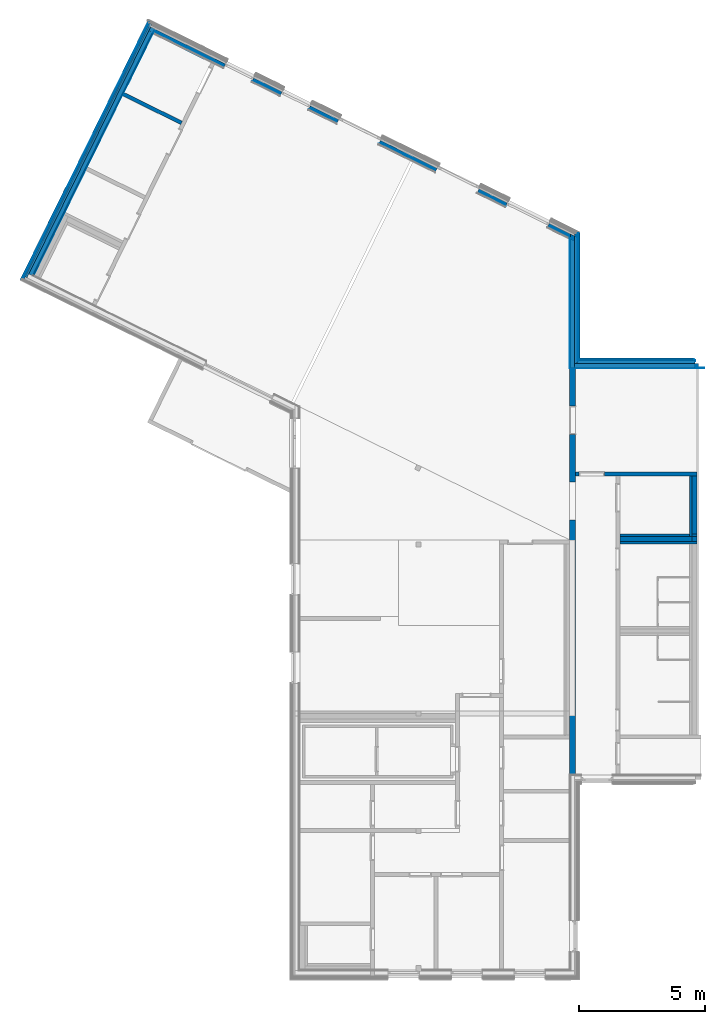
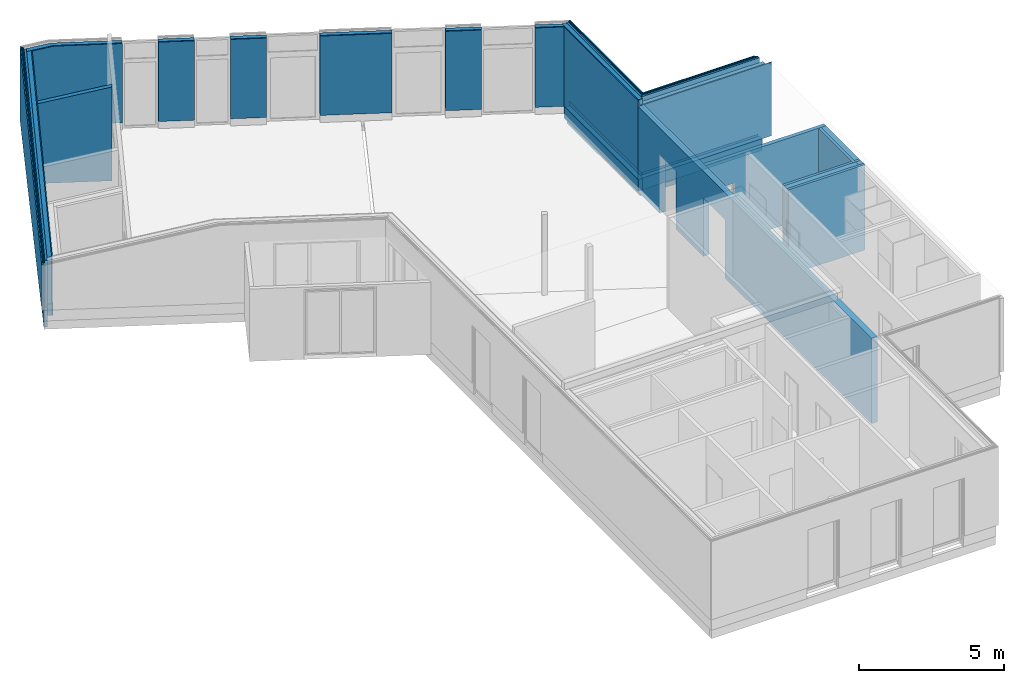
# One storey, part 5 of 23: 43 walls, 13 openings.
"""IFC4 building model written with IfcOpenShell, lengths in metres."""

from ifc_helpers import new_model, entity, si_unit, converted_unit, derived_unit, frame, frame_2d, origin, origin_with_axes, place, context, subcontext, project, spatial, polyline, rectangle, outline, extrude, clip, halfspace, bounded_halfspace, material, element, save


model = new_model("IFC4")

# Units and contexts
model_context = context("Model", 3, precision=1e-05, world=origin())
body_context = subcontext(model_context, "Body", "Model", "MODEL_VIEW")
ifc_project = project(units=[si_unit("LENGTHUNIT", "METRE"), si_unit("AREAUNIT", "SQUARE_METRE"), si_unit("VOLUMEUNIT", "CUBIC_METRE"), si_unit("MASSUNIT", "GRAM", prefix="KILO"), converted_unit("PLANEANGLEUNIT", "DEGREE", entity("IfcPlaneAngleMeasure", 0.0174532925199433), si_unit("PLANEANGLEUNIT", "RADIAN"), dimensions=[0, 0, 0, 0, 0, 0, 0]), derived_unit("THERMALTRANSMITTANCEUNIT", [(si_unit("POWERUNIT", "WATT"), 1), (si_unit("THERMODYNAMICTEMPERATUREUNIT", "KELVIN"), -1), (si_unit("LENGTHUNIT", "METRE"), -2)]), derived_unit("VOLUMETRICFLOWRATEUNIT", [(si_unit("LENGTHUNIT", "METRE"), 3), (converted_unit("TIMEUNIT", "hour", entity("IfcTimeMeasure", 3600.0), si_unit("TIMEUNIT", "SECOND"), dimensions=[0, 0, 1, 0, 0, 0, 0]), -1), (si_unit("LENGTHUNIT", "METRE"), -1)])], contexts=[model_context])

# Site, building, storey
site_placement = place(None, origin())
site = spatial("IfcSite", under=ifc_project, at=site_placement, Name="Psychiatrie Neubau Wunstorf", CompositionType="ELEMENT")
building_placement = place(site_placement, origin())
building = spatial("IfcBuilding", under=site, at=building_placement, Name="Neubau H1 Sozialzentrum", CompositionType="ELEMENT")
storey_placement = place(building_placement, frame((0.0, 0.0, 0.7)))
storey = spatial("IfcBuildingStorey", under=building, at=storey_placement, Name="H1 Ebene 0", CompositionType="ELEMENT", Elevation=0.7)

# Walls
ifc_material_1 = material(Name="WA-LB")
wall_1_placement = place(storey_placement, frame((-5.13052529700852, 28.0942445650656, 0.3)))
element("IfcWall", 1, at=wall_1_placement, inside=storey, material=ifc_material_1, context=body_context, shape_type="SweptSolid", body=[
    extrude(rectangle(XDim=5.29952529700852, YDim=0.036, at=frame_2d((2.64976264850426, 0.018), x_axis=(1.0, 0.0))), origin_with_axes(), (0.0, 0.0, 1.0), 3.1),
])
ifc_material_2 = material(Name="WA-HD")
wall_2_placement = place(storey_placement, frame((-4.97052529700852, 28.1302445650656, 0.3)))
element("IfcWall", 2, at=wall_2_placement, inside=storey, material=ifc_material_2, context=body_context, shape_type="SweptSolid", body=[
    extrude(rectangle(XDim=4.90452529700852, YDim=0.16, at=frame_2d((2.45226264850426, 0.08), x_axis=(1.0, 0.0))), origin_with_axes(), (0.0, 0.0, 1.0), 3.1),
])
ifc_material_3 = material(Name="WA-DL")
wall_3_placement = place(storey_placement, frame((-4.89052529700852, 28.2902445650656, 0.3)))
element("IfcWall", 3, at=wall_3_placement, inside=storey, material=ifc_material_3, context=body_context, shape_type="SweptSolid", body=[
    extrude(rectangle(XDim=4.68952529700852, YDim=0.08, at=frame_2d((2.34476264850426, 0.04), x_axis=(1.0, 0.0))), origin_with_axes(), (0.0, 0.0, 1.0), 3.3),
])
ifc_material_4 = material(Name="WA-LB")
wall_4_placement = place(storey_placement, frame((-4.85452529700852, 28.3702445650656, 0.3)))
element("IfcWall", 4, at=wall_4_placement, inside=storey, material=ifc_material_4, context=body_context, shape_type="SweptSolid", body=[
    extrude(rectangle(XDim=4.65352529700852, YDim=0.036, at=frame_2d((2.32676264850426, 0.018), x_axis=(1.0, 0.0))), origin_with_axes(), (0.0, 0.0, 1.0), 3.3),
])
ifc_material_5 = material(Name="WA-KL")
wall_5_placement = place(storey_placement, frame((-4.83052529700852, 28.4062445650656, 0.3)))
element("IfcWall", 5, at=wall_5_placement, inside=storey, material=ifc_material_5, context=body_context, shape_type="SweptSolid", body=[
    extrude(rectangle(XDim=4.60452529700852, YDim=0.024, at=frame_2d((2.30226264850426, 0.012), x_axis=(1.0, 0.0))), origin_with_axes(), (0.0, 0.0, 1.0), 3.3),
])
ifc_material_6 = material(Name="WA-TL")
wall_6_placement = place(storey_placement, frame((-4.80652529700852, 28.4302445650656, 0.3)))
element("IfcWall", 6, at=wall_6_placement, inside=storey, material=ifc_material_6, context=body_context, shape_type="SweptSolid", body=[
    extrude(rectangle(XDim=4.55552529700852, YDim=0.024, at=frame_2d((2.27776264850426, 0.012), x_axis=(1.0, 0.0))), origin_with_axes(), (0.0, 0.0, 1.0), 3.3),
])
ifc_material_7 = material(Name="WA-HS")
wall_7_placement = place(storey_placement, frame((-4.76452529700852, 28.4542445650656, 0.3)))
element("IfcWall", 7, at=wall_7_placement, inside=storey, material=ifc_material_7, context=body_context, shape_type="SweptSolid", body=[
    extrude(rectangle(XDim=4.47152529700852, YDim=0.042, at=frame_2d((2.23576264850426, 0.021), x_axis=(1.0, 0.0))), origin_with_axes(), (0.0, 0.0, 1.0), 3.3),
])

# Wall, openings
ifc_material_8 = material(Name="WA-LB")
wall_8_placement = place(storey_placement, frame((-21.7161505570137, 41.3783096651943, 0.3), z_axis=(0.0, 0.0, 1.0), x_axis=(0.896905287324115, -0.442222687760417, 0.0)))
wall_8 = element("IfcWall", 8, at=wall_8_placement, inside=storey, material=ifc_material_8, context=body_context, shape_type="Clipping", body=[
    clip(extrude(outline(polyline([(-3.6084743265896, 7.31861976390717), (14.8434463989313, 7.31861976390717), (14.8256964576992, 7.35461976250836), (-3.60847432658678, 7.35461976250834), (-3.6084743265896, 7.31861976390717)])), frame((3.6084743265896, -7.31861976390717, 0.0), z_axis=(0.0, 0.0, 1.0), x_axis=(1.0, 0.0, 0.0)), (0.0, 0.0, 1.0), 3.35), bounded_halfspace(frame((0.386030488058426, 0.0179999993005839, 3.26121298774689), z_axis=(0.222899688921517, 0.105378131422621, -0.969129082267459), x_axis=(-0.427404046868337, 0.904060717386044, 0.0)), True, origin_with_axes(), polyline([(0.780570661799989, 0.0), (0.763551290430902, 0.035999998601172), (0.0, 0.0359999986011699), (0.0, 0.0), (0.780570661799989, 0.0)]))),
])
opening_1_placement = place(wall_8_placement, frame((17.449870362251, 0.0359999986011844, -0.5), z_axis=(0.0, -1.0, 0.0), x_axis=(0.0, 0.0, 1.0)))
element("IfcOpeningElement", 9, at=opening_1_placement, cuts=wall_8, Name="Fensteröffnung", ObjectType="Opening", context=body_context, shape_type="SweptSolid", body=[
    extrude(outline(polyline([(3.85, 1.85), (3.85, 0.0), (0.0, 0.0), (0.0, 1.85), (3.85, 1.85)])), origin_with_axes(), (0.0, 0.0, 1.0), 0.0359999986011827),
])
opening_2_placement = place(wall_8_placement, frame((6.89987036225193, 0.0359999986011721, -0.5), z_axis=(0.0, -1.0, 0.0), x_axis=(0.0, 0.0, 1.0)))
element("IfcOpeningElement", 10, at=opening_2_placement, cuts=wall_8, Name="Fensteröffnung", ObjectType="Opening", context=body_context, shape_type="SweptSolid", body=[
    extrude(outline(polyline([(3.85, 1.25), (3.85, 0.0), (0.0, 0.0), (0.0, 1.25), (3.85, 1.25)])), origin_with_axes(), (0.0, 0.0, 1.0), 0.0359999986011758),
])
opening_3_placement = place(wall_8_placement, frame((4.39987036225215, 0.0359999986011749, -0.5), z_axis=(0.0, -1.0, 0.0), x_axis=(0.0, 0.0, 1.0)))
element("IfcOpeningElement", 11, at=opening_3_placement, cuts=wall_8, Name="Fensteröffnung", ObjectType="Opening", context=body_context, shape_type="SweptSolid", body=[
    extrude(outline(polyline([(3.85, 1.25000000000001), (3.85, 0.0), (0.0, 0.0), (0.0, 1.25000000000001), (3.85, 1.25000000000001)])), origin_with_axes(), (0.0, 0.0, 1.0), 0.0359999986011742),
])
opening_4_placement = place(wall_8_placement, frame((12.4998675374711, 0.0, -0.5), z_axis=(0.0, 1.0, 0.0), x_axis=(0.0, 0.0, 1.0)))
element("IfcOpeningElement", 12, at=opening_4_placement, cuts=wall_8, Name="Türöffnung", ObjectType="Opening", context=body_context, shape_type="SweptSolid", body=[
    extrude(outline(polyline([(3.85, 1.85000000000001), (3.85, 0.0), (0.0, 0.0), (0.0, 1.85000000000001), (3.85, 1.85000000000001)])), origin_with_axes(), (0.0, 0.0, 1.0), 0.0359999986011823),
])
opening_5_placement = place(wall_8_placement, frame((8.14986753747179, 0.0, -0.5), z_axis=(2.5263742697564e-14, 1.0, 0.0), x_axis=(0.0, 0.0, 1.0)))
element("IfcOpeningElement", 13, at=opening_5_placement, cuts=wall_8, Name="Türöffnung", ObjectType="Opening", context=body_context, shape_type="SweptSolid", body=[
    extrude(outline(polyline([(3.85, 1.85000000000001), (3.85, 0.0), (0.0, 0.0), (0.0, 1.85000000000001), (3.85, 1.85000000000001)])), origin_with_axes(), (0.0, 0.0, 1.0), 0.0359999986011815),
])

ifc_material_9 = material(Name="WA-HD")
wall_9_placement = place(storey_placement, frame((-21.843734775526, 41.4813535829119, 0.3), z_axis=(0.0, 0.0, 1.0), x_axis=(0.896905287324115, -0.442222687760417, 0.0)))
wall_9 = element("IfcWall", 14, at=wall_9_placement, inside=storey, material=ifc_material_9, context=body_context, shape_type="Clipping", body=[
    clip(extrude(outline(polyline([(-3.64414217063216, 7.39096041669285), (14.9901659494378, 7.39096041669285), (14.9112776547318, 7.5509597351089), (-3.64414217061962, 7.55095973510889), (-3.64414217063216, 7.39096041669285)])), frame((3.64414217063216, -7.39096041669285, 0.0), z_axis=(0.0, 0.0, 1.0), x_axis=(1.0, 0.0, 0.0)), (0.0, 0.0, 1.0), 3.35), bounded_halfspace(frame((0.442864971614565, 0.079999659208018, 3.24814105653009), z_axis=(0.222899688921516, 0.105378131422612, -0.969129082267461), x_axis=(-0.427404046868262, 0.904060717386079, 0.0)), True, origin_with_axes(), polyline([(0.923550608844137, 0.0), (0.847909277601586, 0.15999931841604), (0.0, 0.15999931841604), (0.0, 0.0), (0.923550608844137, 0.0)]))),
])
opening_6_placement = place(wall_9_placement, frame((17.6098696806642, 0.159999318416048, -0.5), z_axis=(0.0, -1.0, 0.0), x_axis=(0.0, 0.0, 1.0)))
element("IfcOpeningElement", 15, at=opening_6_placement, cuts=wall_9, Name="Fensteröffnung", ObjectType="Opening", context=body_context, shape_type="SweptSolid", body=[
    extrude(outline(polyline([(3.85, 1.85), (3.85, 0.0), (0.0, 0.0), (0.0, 1.85), (3.85, 1.85)])), origin_with_axes(), (0.0, 0.0, 1.0), 0.159999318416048),
])
opening_7_placement = place(wall_9_placement, frame((7.05986968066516, 0.159999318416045, -0.5), z_axis=(5.68436610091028e-15, -1.0, 0.0), x_axis=(0.0, 0.0, 1.0)))
element("IfcOpeningElement", 16, at=opening_7_placement, cuts=wall_9, Name="Fensteröffnung", ObjectType="Opening", context=body_context, shape_type="SweptSolid", body=[
    extrude(outline(polyline([(3.85, 1.25000000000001), (3.85, 0.0), (0.0, 0.0), (0.0, 1.25000000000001), (3.85, 1.25000000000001)])), origin_with_axes(), (0.0, 0.0, 1.0), 0.159999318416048),
])
opening_8_placement = place(wall_9_placement, frame((4.55986968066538, 0.159999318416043, -0.5), z_axis=(-5.68436610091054e-15, -1.0, 0.0), x_axis=(0.0, 0.0, 1.0)))
element("IfcOpeningElement", 17, at=opening_8_placement, cuts=wall_9, Name="Fensteröffnung", ObjectType="Opening", context=body_context, shape_type="SweptSolid", body=[
    extrude(outline(polyline([(3.85, 1.25000000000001), (3.85, 0.0), (0.0, 0.0), (0.0, 1.25000000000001), (3.85, 1.25000000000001)])), origin_with_axes(), (0.0, 0.0, 1.0), 0.15999931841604),
])
opening_9_placement = place(wall_9_placement, frame((12.6598668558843, 0.0, -0.5), z_axis=(0.0, 1.0, 0.0), x_axis=(0.0, 0.0, 1.0)))
element("IfcOpeningElement", 18, at=opening_9_placement, cuts=wall_9, Name="Türöffnung", ObjectType="Opening", context=body_context, shape_type="SweptSolid", body=[
    extrude(outline(polyline([(3.85, 1.85000000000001), (3.85, 0.0), (0.0, 0.0), (0.0, 1.85000000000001), (3.85, 1.85000000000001)])), origin_with_axes(), (0.0, 0.0, 1.0), 0.159999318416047),
])
opening_10_placement = place(wall_9_placement, frame((8.30986685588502, 0.0, -0.5), z_axis=(0.0, 1.0, 0.0), x_axis=(0.0, 0.0, 1.0)))
element("IfcOpeningElement", 19, at=opening_10_placement, cuts=wall_9, Name="Türöffnung", ObjectType="Opening", context=body_context, shape_type="SweptSolid", body=[
    extrude(outline(polyline([(3.85, 1.85), (3.85, 0.0), (0.0, 0.0), (0.0, 1.85), (3.85, 1.85)])), origin_with_axes(), (0.0, 0.0, 1.0), 0.15999931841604),
])

# Walls
ifc_material_10 = material(Name="WA-LB")
wall_10_placement = place(storey_placement, frame((-5.16652529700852, 33.2585897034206, 0.3), z_axis=(0.0, 0.0, 1.0), x_axis=(0.0, -1.0, 0.0)))
element("IfcWall", 20, at=wall_10_placement, inside=storey, material=ifc_material_10, context=body_context, shape_type="SweptSolid", body=[
    extrude(outline(polyline([(-5.16434513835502, 0.0), (0.0, 0.0), (0.0, 0.036), (-5.14659519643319, 0.036), (-5.16434513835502, 0.0)])), frame((5.16434513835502, 0.0, 0.0), z_axis=(0.0, 0.0, 1.0), x_axis=(1.0, 0.0, 0.0)), (0.0, 0.0, 1.0), 3.35),
])
ifc_material_11 = material(Name="WA-HD")
wall_11_placement = place(storey_placement, frame((-5.13052529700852, 33.4192301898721, 0.3), z_axis=(0.0, 0.0, 1.0), x_axis=(0.0, -1.0, 0.0)))
element("IfcWall", 21, at=wall_11_placement, inside=storey, material=ifc_material_11, context=body_context, shape_type="SweptSolid", body=[
    extrude(outline(polyline([(-5.28898562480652, 0.0), (0.0, 0.0), (0.0, 0.16), (-5.21009699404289, 0.16), (-5.28898562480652, 0.0)])), frame((5.28898562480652, 0.0, 0.0), z_axis=(0.0, 0.0, 1.0), x_axis=(1.0, 0.0, 0.0)), (0.0, 0.0, 1.0), 3.35),
])
ifc_material_12 = material(Name="WA-DL")
wall_12_placement = place(storey_placement, frame((-4.97052529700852, 33.4295371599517, 0.3), z_axis=(0.0, 0.0, 1.0), x_axis=(0.0, -1.0, 0.0)))
element("IfcWall", 22, at=wall_12_placement, inside=storey, material=ifc_material_12, context=body_context, shape_type="SweptSolid", body=[
    extrude(outline(polyline([(-5.13929259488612, 0.0), (0.0, 0.0), (0.0, 0.08), (-5.0998482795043, 0.08), (-5.13929259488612, 0.0)])), frame((5.13929259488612, 0.0, 0.0), z_axis=(0.0, 0.0, 1.0), x_axis=(1.0, 0.0, 0.0)), (0.0, 0.0, 1.0), 3.35),
])
ifc_material_13 = material(Name="WA-LB")
wall_13_placement = place(storey_placement, frame((-4.89052529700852, 33.430230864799, 0.3), z_axis=(0.0, 0.0, 1.0), x_axis=(0.0, -1.0, 0.0)))
element("IfcWall", 23, at=wall_13_placement, inside=storey, material=ifc_material_13, context=body_context, shape_type="SweptSolid", body=[
    extrude(outline(polyline([(-5.05998629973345, 0.0), (0.0, 0.0), (0.0, 0.036), (-5.04223635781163, 0.036), (-5.05998629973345, 0.0)])), frame((5.05998629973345, 0.0, 0.0), z_axis=(0.0, 0.0, 1.0), x_axis=(1.0, 0.0, 0.0)), (0.0, 0.0, 1.0), 3.35),
])
ifc_material_14 = material(Name="WA-KL")
wall_14_placement = place(storey_placement, frame((-4.85452529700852, 33.439238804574, 0.3), z_axis=(0.0, 0.0, 1.0), x_axis=(0.0, -1.0, 0.0)))
element("IfcWall", 24, at=wall_14_placement, inside=storey, material=ifc_material_14, context=body_context, shape_type="SweptSolid", body=[
    extrude(outline(polyline([(-5.03299423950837, 0.0), (0.0, 0.0), (0.0, 0.024), (-5.02116094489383, 0.024), (-5.03299423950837, 0.0)])), frame((5.03299423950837, 0.0, 0.0), z_axis=(0.0, 0.0, 1.0), x_axis=(1.0, 0.0, 0.0)), (0.0, 0.0, 1.0), 3.35),
])
ifc_material_15 = material(Name="WA-TL")
wall_15_placement = place(storey_placement, frame((-4.83052529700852, 33.4541641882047, 0.3), z_axis=(0.0, 0.0, 1.0), x_axis=(0.0, -1.0, 0.0)))
element("IfcWall", 25, at=wall_15_placement, inside=storey, material=ifc_material_15, context=body_context, shape_type="SweptSolid", body=[
    extrude(outline(polyline([(-5.02391962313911, 0.0), (0.0, 0.0), (0.0, 0.024), (-5.01208632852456, 0.024), (-5.02391962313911, 0.0)])), frame((5.02391962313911, 0.0, 0.0), z_axis=(0.0, 0.0, 1.0), x_axis=(1.0, 0.0, 0.0)), (0.0, 0.0, 1.0), 3.35),
])
ifc_material_16 = material(Name="WA-HS")
wall_16_placement = place(storey_placement, frame((-4.80652529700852, 33.4891585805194, 0.3), z_axis=(0.0, 0.0, 1.0), x_axis=(0.0, -1.0, 0.0)))
element("IfcWall", 26, at=wall_16_placement, inside=storey, material=ifc_material_16, context=body_context, shape_type="SweptSolid", body=[
    extrude(outline(polyline([(-5.03491401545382, 0.0), (0.0, 0.0), (0.0, 0.042), (-5.01420574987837, 0.042), (-5.03491401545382, 0.0)])), frame((5.03491401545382, 0.0, 0.0), z_axis=(0.0, 0.0, 1.0), x_axis=(1.0, 0.0, 0.0)), (0.0, 0.0, 1.0), 3.35),
])
ifc_material_17 = material(Name="WA-LB")
wall_17_placement = place(storey_placement, frame((-26.4120419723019, 31.7728100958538, 0.3), z_axis=(0.0, 0.0, 1.0), x_axis=(0.442222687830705, 0.896905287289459, 0.0)))
element("IfcWall", 27, at=wall_17_placement, inside=storey, material=ifc_material_17, context=body_context, shape_type="Clipping", body=[
    clip(extrude(rectangle(XDim=10.6918530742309, YDim=0.0359999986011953, at=frame_2d((5.34592653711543, 0.0179999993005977), x_axis=(1.0, 0.0))), origin_with_axes(), (0.0, 0.0, 1.0), 3.17874874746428), halfspace(frame((5.34592653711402, 0.0179999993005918, 2.59332008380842), z_axis=(0.105378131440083, -0.222899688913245, -0.969129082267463), x_axis=(0.994140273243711, 5.55111512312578e-17, 0.108097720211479)), True)),
])
ifc_material_18 = material(Name="WA-HD")
wall_18_placement = place(storey_placement, frame((-26.4602505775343, 31.7564415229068, 0.3), z_axis=(0.0, 0.0, 1.0), x_axis=(0.442222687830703, 0.89690528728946, 0.0)))
element("IfcWall", 28, at=wall_18_placement, inside=storey, material=ifc_material_18, context=body_context, shape_type="Clipping", body=[
    clip(extrude(rectangle(XDim=10.7638530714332, YDim=0.159999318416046, at=frame_2d((5.38192653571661, 0.0799996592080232), x_axis=(1.0, 0.0))), origin_with_axes(), (0.0, 0.0, 1.0), 3.17438320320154), halfspace(frame((5.38192653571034, 0.0799996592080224, 2.57078016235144), z_axis=(0.105378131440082, -0.222899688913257, -0.96912908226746), x_axis=(0.994140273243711, -5.55111512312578e-17, 0.108097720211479)), True)),
])
ifc_material_19 = material(Name="WA-DL")
wall_19_placement = place(storey_placement, frame((-26.6745101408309, 31.6836926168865, 0.3), z_axis=(0.0, 0.0, 1.0), x_axis=(0.442222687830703, 0.89690528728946, 0.0)))
element("IfcWall", 29, at=wall_19_placement, inside=storey, material=ifc_material_19, context=body_context, shape_type="Clipping", body=[
    clip(extrude(rectangle(XDim=11.0838517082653, YDim=0.0800000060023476, at=frame_2d((5.54192585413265, 0.0400000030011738), x_axis=(1.0, 0.0))), origin_with_axes(), (0.0, 0.0, 1.0), 3.15498086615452), halfspace(frame((5.54192585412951, 0.040000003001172, 2.54318024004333), z_axis=(0.105378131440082, -0.222899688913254, -0.969129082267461), x_axis=(0.994140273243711, 5.55111512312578e-17, 0.108097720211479)), True)),
])
ifc_material_20 = material(Name="WA-LB")
wall_20_placement = place(storey_placement, frame((-26.7816403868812, 31.647318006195, 0.3), z_axis=(0.0, 0.0, 1.0), x_axis=(0.442222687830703, 0.89690528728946, 0.0)))
element("IfcWall", 30, at=wall_20_placement, inside=storey, material=ifc_material_20, context=body_context, shape_type="Clipping", body=[
    clip(extrude(rectangle(XDim=11.24385172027, YDim=0.0360000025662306, at=frame_2d((5.62192586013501, 0.0180000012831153), x_axis=(1.0, 0.0))), origin_with_axes(), (0.0, 0.0, 1.0), 3.14527965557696), halfspace(frame((5.62192586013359, 0.0180000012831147, 2.52984023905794), z_axis=(0.105378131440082, -0.222899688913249, -0.969129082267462), x_axis=(0.994140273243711, 5.55111512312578e-17, 0.108097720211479)), True)),
])
ifc_material_21 = material(Name="WA-KL")
wall_21_placement = place(storey_placement, frame((-26.8298489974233, 31.6309494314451, 0.3), z_axis=(0.0, 0.0, 1.0), x_axis=(0.442222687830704, 0.89690528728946, 0.0)))
element("IfcWall", 31, at=wall_21_placement, inside=storey, material=ifc_material_21, context=body_context, shape_type="Clipping", body=[
    clip(extrude(rectangle(XDim=11.3158517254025, YDim=0.0239992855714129, at=frame_2d((5.65792586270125, 0.0119996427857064), x_axis=(1.0, 0.0))), origin_with_axes(), (0.0, 0.0, 1.0), 3.1409141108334), halfspace(frame((5.65792586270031, 0.0119996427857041, 2.52294032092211), z_axis=(0.105378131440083, -0.222899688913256, -0.969129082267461), x_axis=(0.994140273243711, 0.0, 0.108097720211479)), True)),
])
ifc_material_22 = material(Name="WA-TL")
wall_22_placement = place(storey_placement, frame((-26.8619871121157, 31.6200373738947, 0.3), z_axis=(0.0, 0.0, 1.0), x_axis=(0.442222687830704, 0.89690528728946, 0.0)))
element("IfcWall", 32, at=wall_22_placement, inside=storey, material=ifc_material_22, context=body_context, shape_type="Clipping", body=[
    clip(extrude(rectangle(XDim=11.3638502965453, YDim=0.0240000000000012, at=frame_2d((5.68192514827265, 0.0120000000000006), x_axis=(1.0, 0.0))), origin_with_axes(), (0.0, 0.0, 1.0), 3.13800383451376), halfspace(frame((5.68192514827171, 0.0120000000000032, 2.51742040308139), z_axis=(0.105378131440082, -0.222899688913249, -0.969129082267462), x_axis=(0.994140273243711, 0.0, 0.108097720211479)), True)),
])
ifc_material_23 = material(Name="WA-HS")
wall_23_placement = place(storey_placement, frame((-26.8941261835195, 31.609124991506, 0.3), z_axis=(0.0, 0.0, 1.0), x_axis=(0.442222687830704, 0.896905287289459, 0.0)))
element("IfcWall", 33, at=wall_23_placement, inside=storey, material=ifc_material_23, context=body_context, shape_type="Clipping", body=[
    clip(extrude(rectangle(XDim=11.4118502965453, YDim=0.0419999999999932, at=frame_2d((5.70592514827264, 0.0209999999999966), x_axis=(1.0, 0.0))), origin_with_axes(), (0.0, 0.0, 1.0), 3.13509347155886), halfspace(frame((5.70592514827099, 0.0209999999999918, 2.5098304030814), z_axis=(0.105378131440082, -0.22289968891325, -0.969129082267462), x_axis=(0.994140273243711, 0.0, 0.108097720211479)), True)),
])
ifc_material_24 = material(Name="WA-LB")
wall_24_placement = place(storey_placement, frame((-26.4120410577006, 31.7728104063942, -0.2), z_axis=(0.0, 0.0, 1.0), x_axis=(0.442222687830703, 0.89690528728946, 0.0)))
element("IfcWall", 34, at=wall_24_placement, inside=storey, material=ifc_material_24, context=body_context, shape_type="SweptSolid", body=[
    extrude(rectangle(XDim=10.7128517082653, YDim=0.0209999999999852, at=frame_2d((5.35642585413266, 0.0104999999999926), x_axis=(1.0, 0.0))), origin_with_axes(), (0.0, 0.0, 1.0), 0.5),
])
ifc_material_25 = material(Name="WA-STB")
wall_25_placement = place(storey_placement, frame((-26.4401627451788, 31.7632620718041, -0.2), z_axis=(0.0, 0.0, 1.0), x_axis=(0.442222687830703, 0.89690528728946, 0.0)))
element("IfcWall", 35, at=wall_25_placement, inside=storey, material=ifc_material_25, context=body_context, shape_type="SweptSolid", body=[
    extrude(rectangle(XDim=10.9088517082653, YDim=0.174999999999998, at=frame_2d((5.45442585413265, 0.087499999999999), x_axis=(1.0, 0.0))), origin_with_axes(), (0.0, 0.0, 1.0), 0.5),
])
ifc_material_26 = material(Name="WA-DE")
wall_26_placement = place(storey_placement, frame((-26.6745101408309, 31.6836926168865, -0.56), z_axis=(0.0, 0.0, 1.0), x_axis=(0.442222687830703, 0.89690528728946, 0.0)))
element("IfcWall", 36, at=wall_26_placement, inside=storey, material=ifc_material_26, context=body_context, shape_type="SweptSolid", body=[
    extrude(rectangle(XDim=11.2038517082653, YDim=0.120000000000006, at=frame_2d((5.60192585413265, 0.060000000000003), x_axis=(1.0, 0.0))), origin_with_axes(), (0.0, 0.0, 1.0), 0.86),
])
ifc_material_27 = material(Name="WA-LB")
wall_27_placement = place(storey_placement, frame((-26.8352054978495, 31.629130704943, -0.2), z_axis=(0.0, 0.0, 1.0), x_axis=(0.442222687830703, 0.89690528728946, 0.0)))
element("IfcWall", 37, at=wall_27_placement, inside=storey, material=ifc_material_27, context=body_context, shape_type="SweptSolid", body=[
    extrude(rectangle(XDim=11.3388517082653, YDim=0.0150000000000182, at=frame_2d((5.66942585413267, 0.00750000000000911), x_axis=(1.0, 0.0))), origin_with_axes(), (0.0, 0.0, 1.0), 0.5),
])
ifc_material_28 = material(Name="WA-LB")
wall_28_placement = place(storey_placement, frame((-5.1665252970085, 33.2184509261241, -0.2), z_axis=(0.0, 0.0, 1.0), x_axis=(0.0, -1.0, 0.0)))
element("IfcWall", 38, at=wall_28_placement, inside=storey, material=ifc_material_28, context=body_context, shape_type="SweptSolid", body=[
    extrude(outline(polyline([(-5.12420636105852, 0.0), (0.0, 0.0), (0.0, 0.0209999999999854), (-5.1138522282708, 0.0209999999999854), (-5.12420636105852, 0.0)])), frame((5.12420636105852, 0.0, 0.0), z_axis=(0.0, 0.0, 1.0), x_axis=(1.0, 0.0, 0.0)), (0.0, 0.0, 1.0), 0.5),
])
ifc_material_29 = material(Name="WA-STB")
wall_29_placement = place(storey_placement, frame((-5.14552529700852, 33.231510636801, -0.2), z_axis=(0.0, 0.0, 1.0), x_axis=(0.0, -1.0, 0.0)))
element("IfcWall", 39, at=wall_29_placement, inside=storey, material=ifc_material_29, context=body_context, shape_type="SweptSolid", body=[
    extrude(outline(polyline([(-5.11626607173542, 0.0), (0.0, 0.0), (0.0, 0.175), (-5.02998163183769, 0.175), (-5.11626607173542, 0.0)])), frame((5.11626607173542, 0.0, 0.0), z_axis=(0.0, 0.0, 1.0), x_axis=(1.0, 0.0, 0.0)), (0.0, 0.0, 1.0), 0.5),
])
ifc_material_30 = material(Name="WA-DE")
wall_30_placement = place(storey_placement, frame((-4.97052529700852, 33.3403415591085, -0.56), z_axis=(0.0, 0.0, 1.0), x_axis=(0.0, -1.0, 0.0)))
element("IfcWall", 40, at=wall_30_placement, inside=storey, material=ifc_material_30, context=body_context, shape_type="SweptSolid", body=[
    extrude(outline(polyline([(-5.05009699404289, 0.0), (0.0, 0.0), (0.0, 0.120000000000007), (-4.99093052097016, 0.120000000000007), (-5.05009699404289, 0.0)])), frame((5.05009699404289, 0.0, 0.0), z_axis=(0.0, 0.0, 1.0), x_axis=(1.0, 0.0, 0.0)), (0.0, 0.0, 1.0), 0.86),
])
ifc_material_31 = material(Name="WA-LB")
wall_31_placement = place(storey_placement, frame((-4.85052529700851, 33.4149684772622, -0.2), z_axis=(0.0, 0.0, 1.0), x_axis=(0.0, -1.0, 0.0)))
element("IfcWall", 41, at=wall_31_placement, inside=storey, material=ifc_material_31, context=body_context, shape_type="SweptSolid", body=[
    extrude(outline(polyline([(-5.00472391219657, 0.0), (0.0, 0.0), (0.0, 0.0150000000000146), (-4.99732810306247, 0.0150000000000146), (-5.00472391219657, 0.0)])), frame((5.00472391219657, 0.0, 0.0), z_axis=(0.0, 0.0, 1.0), x_axis=(1.0, 0.0, 0.0)), (0.0, 0.0, 1.0), 0.5),
])
ifc_material_32 = material(Name="WA-LB")
wall_32_placement = place(storey_placement, frame((-5.14552529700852, 28.0942445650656, -0.2)))
element("IfcWall", 42, at=wall_32_placement, inside=storey, material=ifc_material_32, context=body_context, shape_type="SweptSolid", body=[
    extrude(rectangle(XDim=4.94452529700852, YDim=0.0209999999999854, at=frame_2d((2.47226264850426, 0.0104999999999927), x_axis=(1.0, 0.0))), origin_with_axes(), (0.0, 0.0, 1.0), 0.5),
])
ifc_material_33 = material(Name="WA-STB")
wall_33_placement = place(storey_placement, frame((-4.97052529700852, 28.1152445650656, -0.2)))
element("IfcWall", 43, at=wall_33_placement, inside=storey, material=ifc_material_33, context=body_context, shape_type="SweptSolid", body=[
    extrude(rectangle(XDim=4.76952529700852, YDim=0.175, at=frame_2d((2.38476264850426, 0.0875), x_axis=(1.0, 0.0))), origin_with_axes(), (0.0, 0.0, 1.0), 0.5),
])
ifc_material_34 = material(Name="WA-DE")
wall_34_placement = place(storey_placement, frame((-4.85052529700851, 28.2902445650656, -0.56)))
element("IfcWall", 44, at=wall_34_placement, inside=storey, material=ifc_material_34, context=body_context, shape_type="SweptSolid", body=[
    extrude(rectangle(XDim=4.64952529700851, YDim=0.120000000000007, at=frame_2d((2.32476264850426, 0.0600000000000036), x_axis=(1.0, 0.0))), origin_with_axes(), (0.0, 0.0, 1.0), 0.86),
])
ifc_material_35 = material(Name="WA-LB")
wall_35_placement = place(storey_placement, frame((-4.8355252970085, 28.4102445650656, -0.2)))
element("IfcWall", 45, at=wall_35_placement, inside=storey, material=ifc_material_35, context=body_context, shape_type="SweptSolid", body=[
    extrude(rectangle(XDim=4.6345252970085, YDim=0.0150000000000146, at=frame_2d((2.31726264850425, 0.00750000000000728), x_axis=(1.0, 0.0))), origin_with_axes(), (0.0, 0.0, 1.0), 0.5),
])

# Wall, openings
ifc_material_36 = material(Name="WI-HW 60")
wall_36_placement = place(storey_placement, frame((-5.16652529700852, 28.1302445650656, -0.2), z_axis=(0.0, 0.0, 1.0), x_axis=(-3.37391420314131e-16, -1.0, 0.0)))
wall_36 = element("IfcWall", 46, at=wall_36_placement, inside=storey, material=ifc_material_36, context=body_context, shape_type="SweptSolid", body=[
    extrude(rectangle(XDim=16.1739981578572, YDim=0.231999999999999, at=frame_2d((8.08699907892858, 0.116), x_axis=(1.0, 0.0))), origin_with_axes(), (0.0, 0.0, 1.0), 3.6),
])
opening_11_placement = place(wall_36_placement, frame((6.04199824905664, 0.231999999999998, 0.0), z_axis=(0.0, -1.0, 0.0), x_axis=(0.0, 0.0, 1.0)))
element("IfcOpeningElement", 47, at=opening_11_placement, cuts=wall_36, Name="Türöffnung", ObjectType="Opening", context=body_context, shape_type="SweptSolid", body=[
    extrude(outline(polyline([(2.46, 1.5), (2.46, 0.0), (0.0, 0.0), (0.0, 1.5), (2.46, 1.5)])), origin_with_axes(), (0.0, 0.0, 1.0), 0.231999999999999),
])
opening_12_placement = place(wall_36_placement, frame((2.65650055, 0.231999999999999, 0.0), z_axis=(0.0, -1.0, 0.0), x_axis=(0.0, 0.0, 1.0)))
element("IfcOpeningElement", 48, at=opening_12_placement, cuts=wall_36, Name="Türöffnung", ObjectType="Opening", context=body_context, shape_type="SweptSolid", body=[
    extrude(outline(polyline([(2.46, 1.1350011), (2.46, 0.0), (0.0, 0.0), (0.0, 1.1350011), (2.46, 1.1350011)])), origin_with_axes(), (0.0, 0.0, 1.0), 0.231999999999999),
])

# Wall, opening
ifc_material_37 = material(Name="WI-IW")
wall_37_placement = place(storey_placement, frame((-0.121000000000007, 23.9882445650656, -0.2), z_axis=(0.0, 0.0, 1.0), x_axis=(-1.0, 0.0, 0.0)))
wall_37 = element("IfcWall", 49, at=wall_37_placement, inside=storey, material=ifc_material_37, context=body_context, shape_type="SweptSolid", body=[
    extrude(rectangle(XDim=4.81352529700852, YDim=0.15, at=frame_2d((2.40676264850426, 0.075), x_axis=(1.0, 0.0))), origin_with_axes(), (0.0, 0.0, 1.0), 3.6),
])
opening_13_placement = place(wall_37_placement, frame((4.6755271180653, 0.15, 0.0), z_axis=(0.0, -1.0, 0.0), x_axis=(0.0, 0.0, 1.0)))
element("IfcOpeningElement", 50, at=opening_13_placement, cuts=wall_37, Name="Türöffnung", ObjectType="Opening", context=body_context, shape_type="SweptSolid", body=[
    extrude(outline(polyline([(2.46, 1.01), (2.46, 0.0), (0.0, 0.0), (0.0, 1.01), (2.46, 1.01)])), origin_with_axes(), (0.0, 0.0, 1.0), 0.15),
])

# Walls
ifc_material_38 = material(Name="Installationsraum")
wall_38_placement = place(storey_placement, frame((-0.121000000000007, 21.238246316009, -0.2), z_axis=(0.0, 0.0, 1.0), x_axis=(2.45957266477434e-16, 1.0, 0.0)))
element("IfcWall", 51, at=wall_38_placement, inside=storey, material=ifc_material_38, context=body_context, shape_type="SweptSolid", body=[
    extrude(rectangle(XDim=2.3, YDim=0.199998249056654, at=frame_2d((1.15, 0.0999991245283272), x_axis=(1.0, -1.18803291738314e-18))), frame((0.299998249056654, 0.0, 0.0), z_axis=(0.0, 0.0, 1.0), x_axis=(1.0, 0.0, 0.0)), (0.0, 0.0, 1.0), 3.6),
    extrude(rectangle(XDim=0.199998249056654, YDim=0.199998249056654, at=frame_2d((-0.0999991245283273, 0.0999991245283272), x_axis=(-2.45957266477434e-16, 1.0))), frame((0.199998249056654, 0.0, 0.0), z_axis=(0.0, 0.0, 1.0), x_axis=(1.0, 0.0, 0.0)), (0.0, 0.0, 1.0), 3.6),
])
ifc_material_39 = material(Name="WI-IW")
wall_39_placement = place(storey_placement, frame((-0.320998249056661, 21.4382445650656, -0.2), z_axis=(0.0, 0.0, 1.0), x_axis=(2.6053233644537e-16, 1.0, 0.0)))
element("IfcWall", 52, at=wall_39_placement, inside=storey, material=ifc_material_39, context=body_context, shape_type="SweptSolid", body=[
    extrude(rectangle(XDim=2.4, YDim=0.1, at=frame_2d((1.2, 0.05), x_axis=(1.0, 0.0))), origin_with_axes(), (0.0, 0.0, 1.0), 3.6),
])
ifc_material_40 = material(Name="WI-IW")
wall_40_placement = place(storey_placement, frame((-3.18450147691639, 21.138246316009, -0.2)))
element("IfcWall", 53, at=wall_40_placement, inside=storey, material=ifc_material_40, context=body_context, shape_type="SweptSolid", body=[
    extrude(rectangle(XDim=3.06350147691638, YDim=0.1, at=frame_2d((1.53175073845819, 0.05), x_axis=(1.0, 0.0))), origin_with_axes(), (0.0, 0.0, 1.0), 3.6),
])
ifc_material_41 = material(Name="Installationsraum")
wall_41_placement = place(storey_placement, frame((-3.18450147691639, 21.238246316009, -0.2)))
element("IfcWall", 54, at=wall_41_placement, inside=storey, material=ifc_material_41, context=body_context, shape_type="SweptSolid", body=[
    extrude(rectangle(XDim=2.86350322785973, YDim=0.199998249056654, at=frame_2d((1.43175161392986, 0.0999991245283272), x_axis=(1.0, 0.0))), origin_with_axes(), (0.0, 0.0, 1.0), 3.6),
])
ifc_material_42 = material(Name="WI-IW")
wall_42_placement = place(storey_placement, frame((-3.18450147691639, 21.4382445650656, -0.2)))
element("IfcWall", 55, at=wall_42_placement, inside=storey, material=ifc_material_42, context=body_context, shape_type="SweptSolid", body=[
    extrude(rectangle(XDim=2.76350322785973, YDim=0.1, at=frame_2d((1.38175161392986, 0.05), x_axis=(1.0, 0.0))), origin_with_axes(), (0.0, 0.0, 1.0), 3.6),
    extrude(rectangle(XDim=0.1, YDim=0.199998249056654, at=frame_2d((-0.099999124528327, 0.05), x_axis=(0.0, 1.0))), frame((3.06350147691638, 0.0, 0.0), z_axis=(0.0, 0.0, 1.0), x_axis=(1.0, 0.0, 0.0)), (0.0, 0.0, 1.0), 3.6),
])
ifc_material_43 = material(Name="WI-LB")
wall_43_placement = place(storey_placement, frame((-20.5181293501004, 37.8925337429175, -0.2), z_axis=(0.0, 0.0, 1.0), x_axis=(-0.896905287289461, 0.4422226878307, 0.0)))
element("IfcWall", 56, at=wall_43_placement, inside=storey, material=ifc_material_43, context=body_context, shape_type="Clipping", body=[
    clip(extrude(outline(polyline([(-2.07545346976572, -1.17331051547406), (0.504554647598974, -1.17331051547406), (0.504547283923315, -1.02331051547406), (-2.07545346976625, -1.02331051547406), (-2.07545346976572, -1.17331051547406)])), frame((2.07545346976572, 1.17331051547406, 0.0), z_axis=(0.0, 0.0, 1.0), x_axis=(1.0, 0.0, 0.0)), (0.0, 0.0, 1.0), 3.9780198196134), halfspace(frame((1.2900022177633, 0.0749999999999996, 3.67316419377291), z_axis=(-0.222899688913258, -0.105378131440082, -0.96912908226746), x_axis=(0.974555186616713, 0.0, -0.224147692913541)), True)),
])

save(model, "model.ifc")
